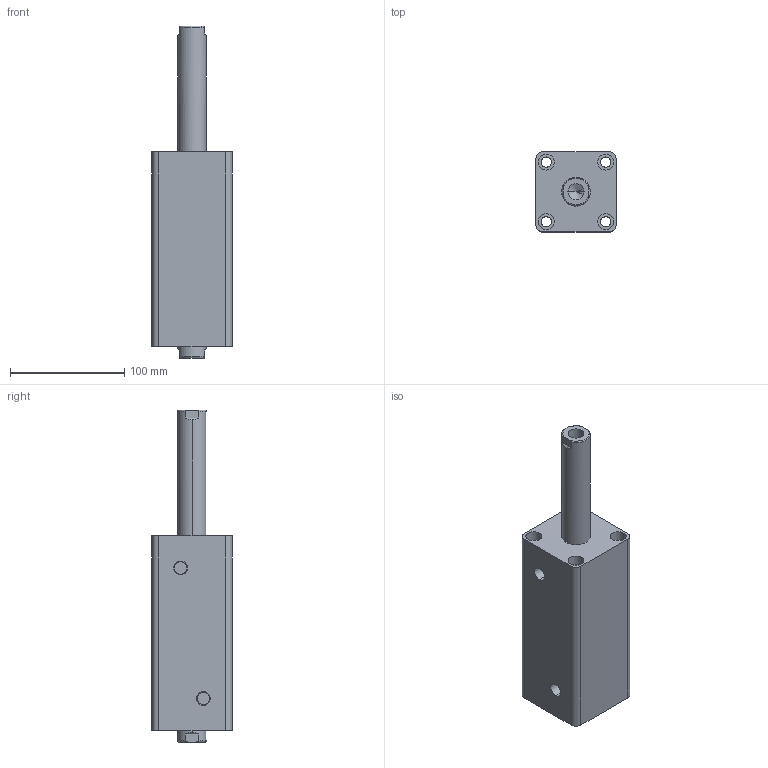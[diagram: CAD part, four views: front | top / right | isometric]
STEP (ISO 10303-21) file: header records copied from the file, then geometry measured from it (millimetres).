
FILE_DESCRIPTION (( 'STEP AP203' ), '1' );
FILE_NAME ('HTB-SW40-100N.STEP', '2019-10-07T09:14:05', ( '微软用户' ), ( '微软中国' ), 'SwSTEP 2.0', 'SolidWorks 2012', '' );
FILE_SCHEMA (( 'CONFIG_CONTROL_DESIGN' ));
Length unit declared in the file: millimetre
Products named in the file (3): HTB-SW40-100N; HTB-SW40-100N活塞杆; HTB-SW40-100掛极
Assembly tree (2 placements, depth 2):
  HTB-SW40-100N
    HTB-SW40-100掛极
    HTB-SW40-100N活塞杆
Bounding box: 70 x 70 x 290 mm (x, y, z)
Volume: 751928 mm3; surface area: 123044.2 mm2
Topology: 2 solids, 2 shells, 100 faces, 228 edges, 146 vertices
Faces by surface type: cylinder 48, plane 32, torus 12, cone 8
Entity records: 3237 total; most frequent: CARTESIAN_POINT 595, DIRECTION 542, ORIENTED_EDGE 448, AXIS2_PLACEMENT_3D 229, EDGE_CURVE 224, VERTEX_POINT 146, EDGE_LOOP 128, CIRCLE 124
